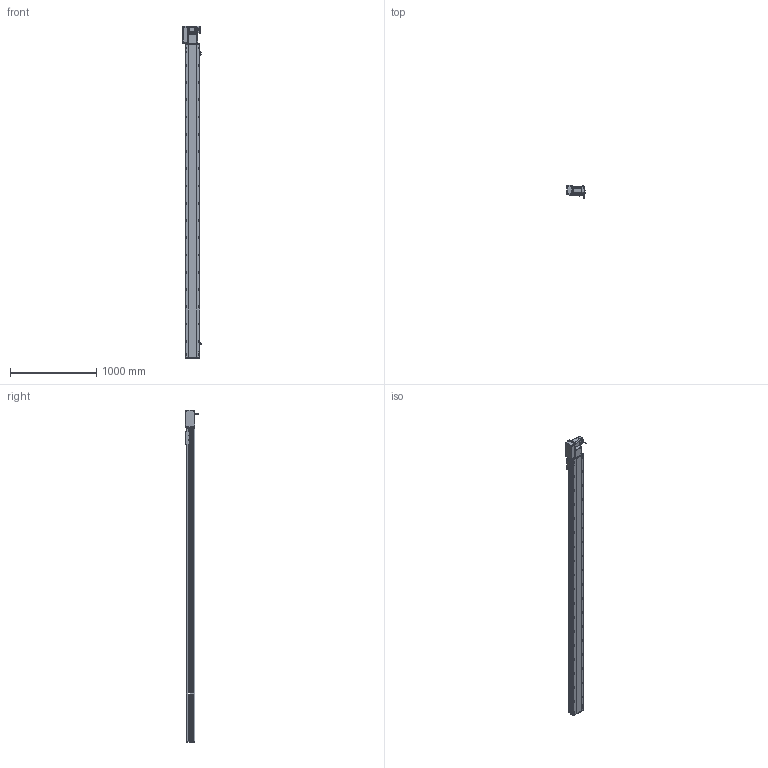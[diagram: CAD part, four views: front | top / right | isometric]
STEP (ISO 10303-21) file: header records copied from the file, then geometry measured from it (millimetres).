
FILE_DESCRIPTION (( 'STEP AP214' ), '1' );
FILE_NAME ('RTB17S-XX-3350-L-M75-C4.STEP', '2025-12-12T00:26:53', ( '' ), ( '' ), 'SwSTEP 2.0', 'SolidWorks 2018', '' );
FILE_SCHEMA (( 'AUTOMOTIVE_DESIGN' ));
Length unit declared in the file: millimetre
Products named in the file (15): 750W萇儂^RTB17S-XX-XX-L-M75-C4; RTH13-BL-012覜茼え俋离^RTB17S-賑釱_RTB17S-XX-XX-L-M75-C4; RTB22S-GY-005P^RTB17S-L-々湍釱蚾饜-750W_RTB17S-XX-XX-L-M75-C4; RTB17-R-011菁釱^RTB17S-XX-XX-L-M75-C4; RTB17S-賑釱^RTB17S-XX-XX-L-M75-C4; EE672^RTB17S-XX-XX-L-M75-C4; RTB22S-GY-018P^RTB17S-L-々湍釱蚾饜-750W_RTB17S-XX-XX-L-M75-C4; RTB22S-GY-008-M75--萇儂啣^RTB17S-L-々湍釱蚾饜-750W_RTB17S-XX-XX-L-M75-C4; RTB17S-L-々湍釱蚾饜-750W^RTB17S-XX-XX-L-M75-C4; RTB17S-L-007奻裔^RTB17S-XX-XX-L-M75-C4; RTB22S-GY-017P^RTB17S-L-々湍釱蚾饜-750W_RTB17S-XX-XX-L-M75-C4; RMP17S-L-014-T20-P75--々湍釱^RTB17S-L-々湍釱蚾饜-750W_RTB17S-XX-XX-L-M75-C4; RTB17S-L-001-耜醱啣^RTB17S-XX-XX-L-M75-C4; RTB17S-XX-3350-L-M75-C4; RTB17S-L-004-賑釱^RTB17S-賑釱_RTB17S-XX-XX-L-M75-C4
Assembly tree (17 placements, depth 3):
  RTB17S-XX-3350-L-M75-C4
    RTB17-R-011菁釱^RTB17S-XX-XX-L-M75-C4
    EE672^RTB17S-XX-XX-L-M75-C4  x3
    RTB17S-L-001-耜醱啣^RTB17S-XX-XX-L-M75-C4
    RTB17S-賑釱^RTB17S-XX-XX-L-M75-C4
      RTB17S-L-004-賑釱^RTB17S-賑釱_RTB17S-XX-XX-L-M75-C4
      RTH13-BL-012覜茼え俋离^RTB17S-賑釱_RTB17S-XX-XX-L-M75-C4
    RTB17S-L-007奻裔^RTB17S-XX-XX-L-M75-C4
    750W萇儂^RTB17S-XX-XX-L-M75-C4
    RTB17S-L-々湍釱蚾饜-750W^RTB17S-XX-XX-L-M75-C4
      RMP17S-L-014-T20-P75--々湍釱^RTB17S-L-々湍釱蚾饜-750W_RTB17S-XX-XX-L-M75-C4
      RTB22S-GY-005P^RTB17S-L-々湍釱蚾饜-750W_RTB17S-XX-XX-L-M75-C4
      RTB22S-GY-017P^RTB17S-L-々湍釱蚾饜-750W_RTB17S-XX-XX-L-M75-C4  x2
      RTB22S-GY-008-M75--萇儂啣^RTB17S-L-々湍釱蚾饜-750W_RTB17S-XX-XX-L-M75-C4
      RTB22S-GY-018P^RTB17S-L-々湍釱蚾饜-750W_RTB17S-XX-XX-L-M75-C4
Bounding box: 210.4 x 152.7 x 3849 mm (x, y, z)
Volume: 26891362.4 mm3; surface area: 4957492.7 mm2
Topology: 17 solids, 17 shells, 2281 faces, 6430 edges, 4166 vertices
Faces by surface type: plane 994, cylinder 871, bspline 294, cone 110, sphere 8, torus 4
Entity records: 67318 total; most frequent: CARTESIAN_POINT 20094, ORIENTED_EDGE 9704, DIRECTION 8942, EDGE_CURVE 4852, AXIS2_PLACEMENT_3D 3186, VERTEX_POINT 3170, VECTOR 2570, LINE 2570
